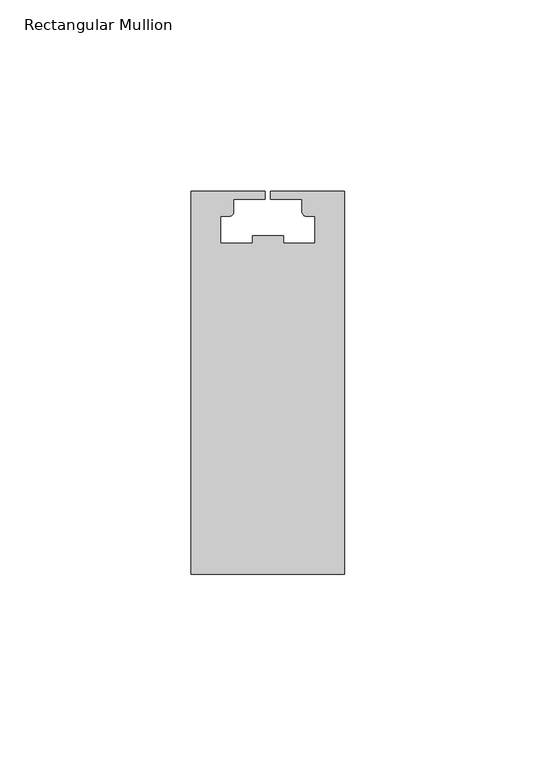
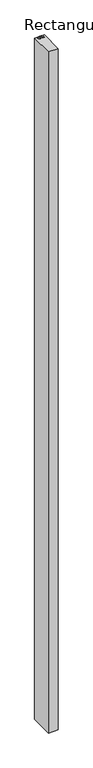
"""IFC4 building model written with IfcOpenShell, lengths in millimetres: member geometry, Rectangular Mullion : SD.100 - left_renson."""

from ifc_helpers import new_model, si_unit, point, frame, frame_2d, origin, place, context, project, spatial, polyline, circle_curve, trimmed, segment, composite_curve, outline, extrude, source, transform, mapped, element, save


def rectangular_mullion_6132f1f1(model_context):
    return source(origin(), model_context, "Body", "SweptSolid", [
        extrude(outline(composite_curve([segment(polyline([(-90.0, -1.0), (-70.7528633, -1.0), (-70.7528633, -3.0), (-78.9220615, -3.0), (-78.9220615, -6.2788187)]), True, "CONTINUOUS"), segment(trimmed(circle_curve(frame_2d((-80.1231703, -6.2788187)), 1.2011087), [point((-78.9220615, -6.2788187))], [point((-80.1231703, -7.4799274))], False, "CARTESIAN"), True, "CONTINUOUS"), segment(polyline([(-80.1231703, -7.4799274), (-82.3724438, -7.4799274), (-82.3724438, -14.5683484), (-74.0479621, -14.5683484), (-74.0479621, -12.5683484), (-65.9520379, -12.5683484), (-65.9520379, -14.5683484), (-57.6275562, -14.5683484), (-57.6275562, -7.4799274), (-59.8768297, -7.4799274)]), True, "CONTINUOUS"), segment(trimmed(circle_curve(frame_2d((-59.8768297, -6.2788187)), 1.2011087), [point((-59.8768297, -7.4799274))], [point((-61.0779385, -6.2788187))], False, "CARTESIAN"), True, "CONTINUOUS"), segment(polyline([(-61.0779385, -6.2788187), (-61.0779385, -3.0), (-69.2471367, -3.0), (-69.2471367, -1.0), (-50.0, -1.0), (-50.0, -101.0), (-90.0, -101.0), (-90.0, -1.0)]), True, "CONTINUOUS")], self_intersect=False)), frame((0.0, 0.0, -3000.0), z_axis=(0.0, 0.0, 1.0), x_axis=(1.0, 0.0, 0.0)), (0.0, 0.0, 1.0), 3000.0),
    ])


if __name__ == "__main__":
    model = new_model("IFC4")
    model_context = context("Model", 3, world=origin())
    ifc_project = project(units=[si_unit("LENGTHUNIT", "METRE", prefix="MILLI")], contexts=[model_context])
    site = spatial("IfcSite", under=ifc_project)
    building = spatial("IfcBuilding", under=site)
    placement = place(None, origin())
    rectangular_mullion_shape = rectangular_mullion_6132f1f1(model_context)
    element("IfcMember", 1, ObjectType="Rectangular Mullion : SD.100 - left_renson", at=placement, inside=building, context=model_context, shape_type="MappedRepresentation", body=[
        mapped(rectangular_mullion_shape, transform((0.0, 0.0, 0.0), x_axis=(1.0, 0.0, 0.0), y_axis=(0.0, 1.0, 0.0), z_axis=(0.0, 0.0, 1.0))),
    ])
    save(model, "model.ifc")
